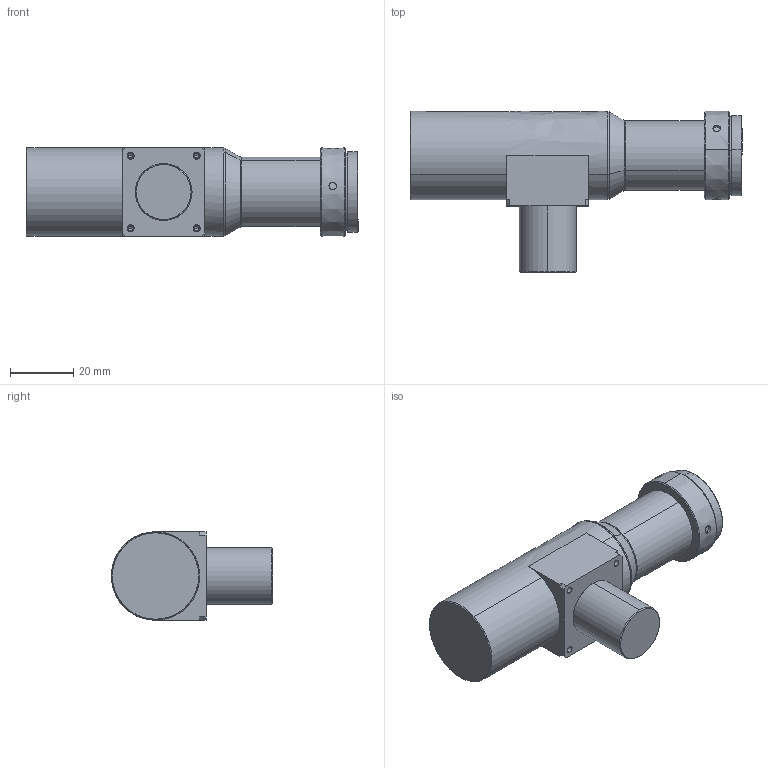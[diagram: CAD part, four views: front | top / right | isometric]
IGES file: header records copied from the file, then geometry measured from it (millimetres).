
Start section: SolidWorks IGES file using analytic representation for surfaces
Global section: file name: C:\Users\dingguolei\Desktop\H\WWH\WWH10-63CTV3\A2.0\跤諦誧腔3D芞\WWH10-63CTV3\WWH10-63CTV3.IGS; native system: SolidWorks 2017; preprocessor: SolidWorks 2017; author: dingguolei; date: 230816.095554; units: millimetre
Bounding box: 105.27 x 51.09 x 28 mm (x, y, z)
Surface area: 12285.9 mm2 (no closed solid volume)
Topology: 0 solids, 0 shells, 88 faces, 1370 edges, 1362 vertices
Faces by surface type: revolution 61, bspline 27
